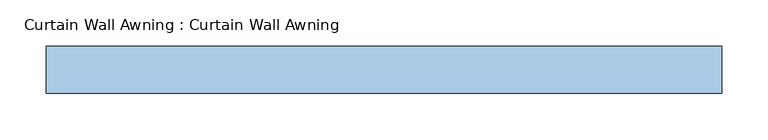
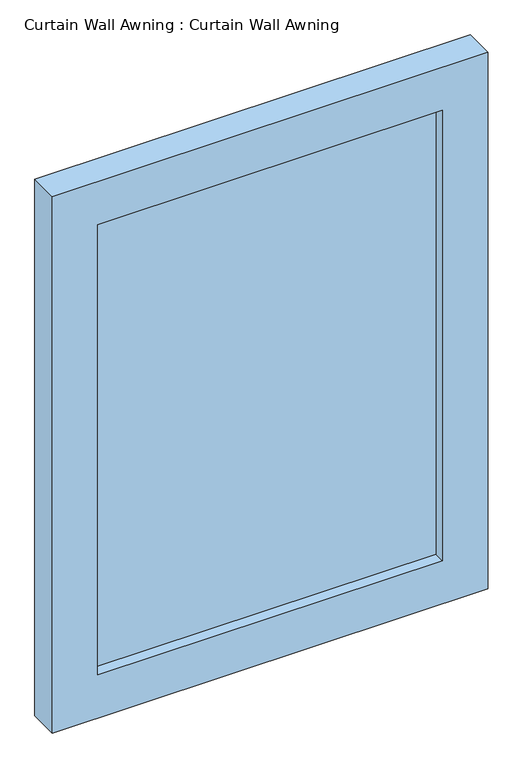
"""IFC4 building model written with IfcOpenShell, lengths in millimetres: window geometry, Curtain Wall Awning : Curtain Wall Awning."""

from ifc_helpers import new_model, si_unit, frame, origin, place, context, project, spatial, polyline, outline, extrude, source, transform, mapped, element, save


def curtain_wall_awning_curtain_wall_awning_fc9573cd(model_context):
    return source(origin(), model_context, "Body", "SweptSolid", [
        extrude(outline(polyline([(288.8, 44.45), (-288.8, 44.45), (-288.8, 57.15), (288.8, 57.15), (288.8, 44.45)])), frame((0.0, 0.0, 76.2), z_axis=(0.0, 0.0, 1.0), x_axis=(1.0, 0.0, 0.0)), (0.0, 0.0, 1.0), 797.6),
        extrude(outline(polyline([(950.0, -365.0), (0.0, -365.0), (0.0, 365.0), (950.0, 365.0), (950.0, -365.0)]), holes=[polyline([(873.8, -288.8), (873.8, 288.8), (76.2, 288.8), (76.2, -288.8), (873.8, -288.8)])]), frame((0.0, 25.4, 0.0), z_axis=(0.0, 1.0, 0.0), x_axis=(0.0, 0.0, 1.0)), (0.0, 0.0, 1.0), 50.8),
    ])


if __name__ == "__main__":
    model = new_model("IFC4")
    model_context = context("Model", 3, world=origin())
    ifc_project = project(units=[si_unit("LENGTHUNIT", "METRE", prefix="MILLI")], contexts=[model_context])
    site = spatial("IfcSite", under=ifc_project)
    building = spatial("IfcBuilding", under=site)
    placement = place(None, origin())
    curtain_wall_awning_curtain_wall_awning_shape = curtain_wall_awning_curtain_wall_awning_fc9573cd(model_context)
    element("IfcWindow", 1, ObjectType="Curtain Wall Awning : Curtain Wall Awning", at=placement, inside=building, context=model_context, shape_type="MappedRepresentation", body=[
        mapped(curtain_wall_awning_curtain_wall_awning_shape, transform((0.0, 0.0, 0.0), x_axis=(1.0, 0.0, 0.0), y_axis=(0.0, 1.0, 0.0), z_axis=(0.0, 0.0, 1.0))),
    ])
    save(model, "model.ifc")
